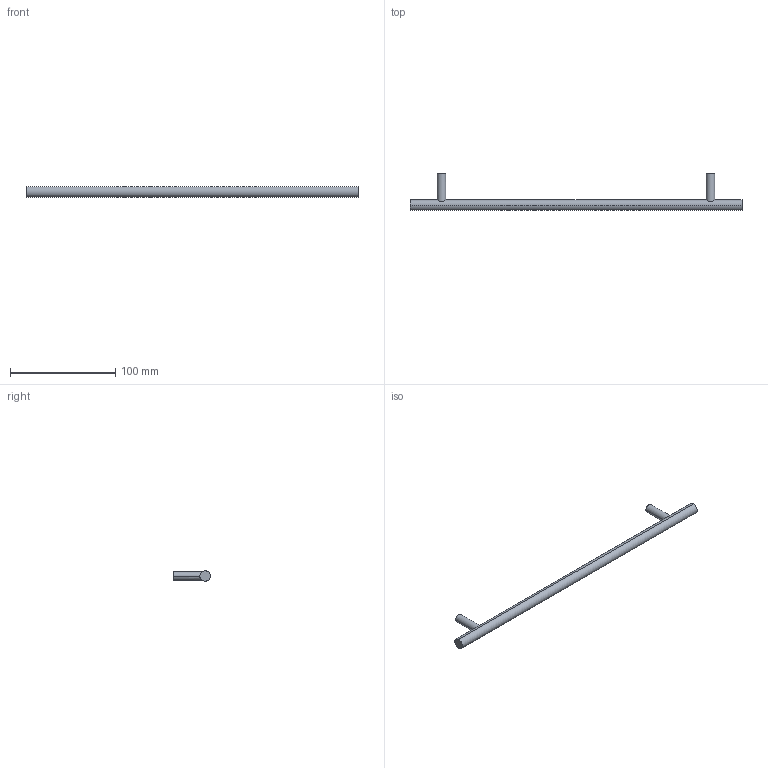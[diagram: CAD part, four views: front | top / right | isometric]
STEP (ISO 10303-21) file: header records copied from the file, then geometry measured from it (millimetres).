
FILE_DESCRIPTION( ( '' ), '1' );
FILE_NAME( 'D:/1.AUTOCAD EXPORT/Group 10/sheet_10_1/9070988.stp', '2013-10-21T10:08:57', ( '' ), ( '' ), ' ', ' ', ' ' );
FILE_SCHEMA( ( 'automotive_design' ) );
Length unit declared in the file: millimetre
Products named in the file (1): 1
Bounding box: 316 x 35 x 10 mm (x, y, z)
Volume: 27074.6 mm3; surface area: 11678.8 mm2
Topology: 1 solids, 1 shells, 16 faces, 32 edges, 22 vertices
Faces by surface type: cylinder 10, plane 6
Entity records: 972 total; most frequent: CARTESIAN_POINT 205, DIRECTION 76, STYLED_ITEM 71, PRESENTATION_STYLE_ASSIGNMENT 71, COLOUR_RGB 71, ORIENTED_EDGE 64, AXIS2_PLACEMENT_3D 33, EDGE_CURVE 32
